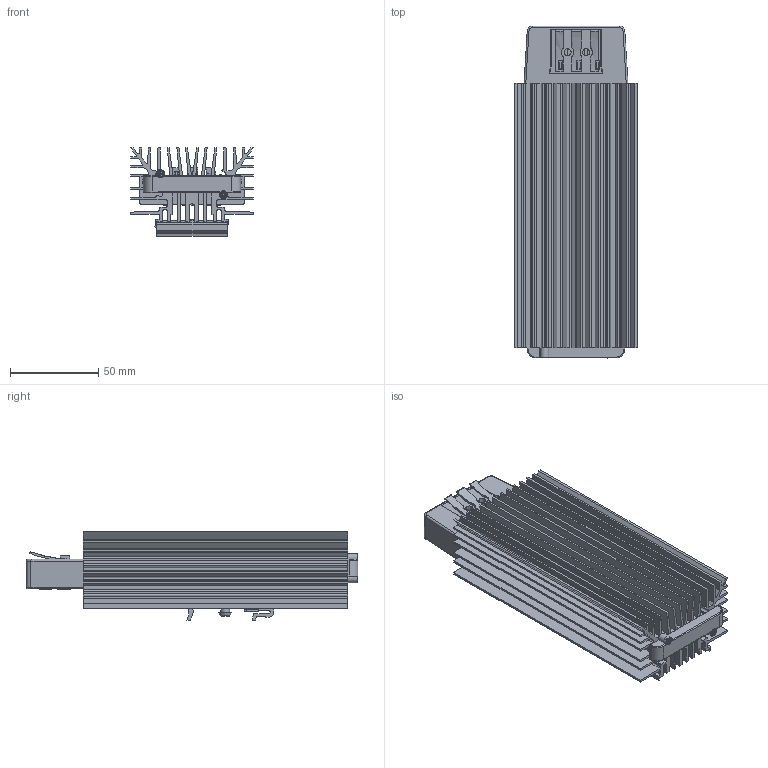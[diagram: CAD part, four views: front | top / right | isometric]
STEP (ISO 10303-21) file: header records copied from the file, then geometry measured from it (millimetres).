
FILE_DESCRIPTION(/* description */ (''),/* implementation_level */ '2;1');
FILE_NAME(/* name */ '4.stp',/* time_stamp */ '2026-03-26T09:29:45+08:00',/* author */ (''),/* organization */ (''),/* preprocessor_version */ 'ST-DEVELOPER v16.7',/* originating_system */ 'SIEMENS PLM Software NX 12.0',/* authorisation */ '');
FILE_SCHEMA (('AUTOMOTIVE_DESIGN { 1 0 10303 214 3 1 1 1 }'));
Length unit declared in the file: millimetre
Products named in the file (1): Admi4A847A397dxg
Bounding box: 69.7 x 188.3 x 50 mm (x, y, z)
Volume: 210547.7 mm3; surface area: 188096.5 mm2
Topology: 9 solids, 9 shells, 625 faces, 1680 edges, 1105 vertices
Faces by surface type: plane 427, cylinder 155, cone 13, extrusion 13, torus 12, bspline 5
Full cylindrical faces by diameter (mm): 1 x5, 1.115 x1, 2 x2, 3 x2, 3.8 x2, 4 x4, 5 x2, 7 x1
Entity records: 19830 total; most frequent: CARTESIAN_POINT 4045, ORIENTED_EDGE 3280, DIRECTION 3148, EDGE_CURVE 1640, VECTOR 1266, LINE 1253, VERTEX_POINT 1095, AXIS2_PLACEMENT_3D 941
